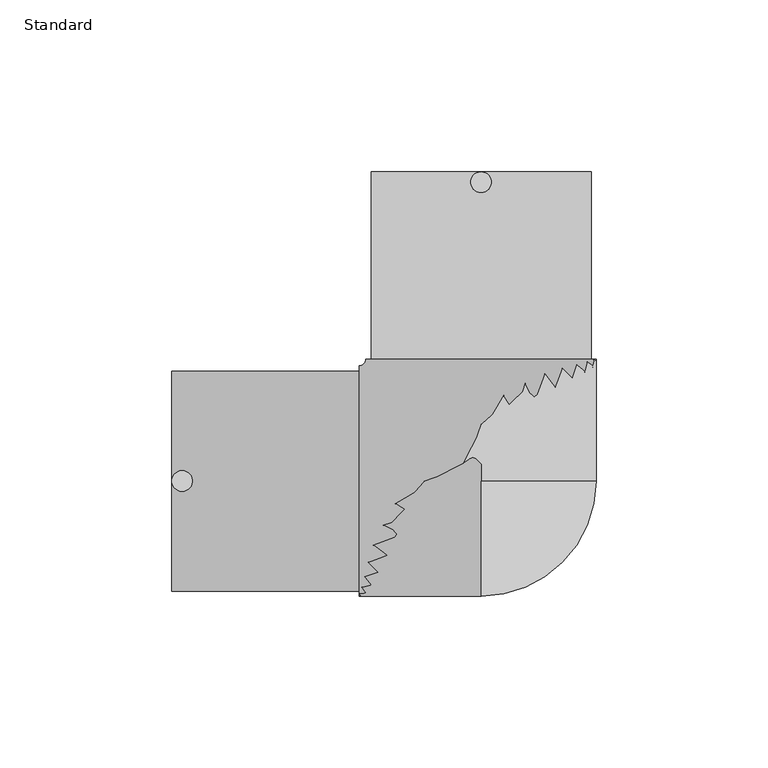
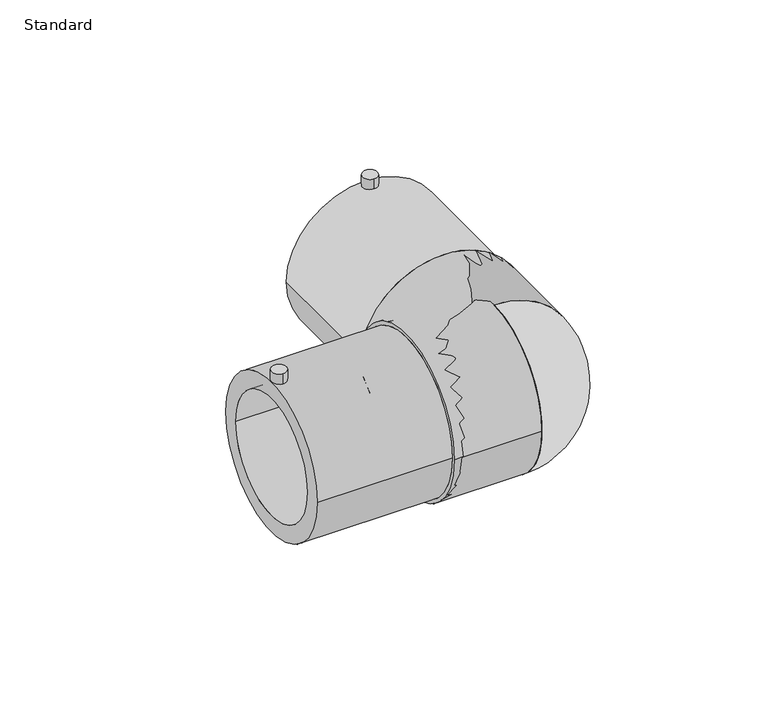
"""IFC4 building model written with IfcOpenShell, lengths in millimetres: pipe fitting geometry, EGB_VASEN_ PPR_Codo electrosoldable 90 WXRD200_Codo electrosoldable 45 WXRD220 : Standard."""

from ifc_helpers import new_model, si_unit, point, frame, frame_2d, origin, origin_2d, place, context, project, spatial, polyline, circle_curve, ellipse_curve, trimmed, segment, composite_curve, outline, extrude, source, transform, mapped, element, save
from ifc_brep_helpers import plane_surface, cylinder_surface, revolved_surface, advanced_brep


def standard_971495b5(model_context):
    return source(origin(), model_context, "Body", "SolidModel", [
        advanced_brep(
        [(0.0, 0.0, -33.5), (0.0, 0.0, 33.5)],
        [
            (0, 1, circle_curve(frame((0.0, 0.0, 0.0), z_axis=(-1.0, 0.0, 0.0), x_axis=(0.0, 1.0, 0.0)), 33.5)),
            (1, 0),
            (1, 0, circle_curve(frame((0.0, 0.0, 0.0), z_axis=(0.0, 1.0, 0.0), x_axis=(-1.0, 0.0, 0.0)), 33.5)),
        ],
        [
            plane_surface(frame((0.0, 0.0, 43.5431585), z_axis=(-1.0, 0.0, 0.0), x_axis=(0.0, -1.0, 0.0))),
            plane_surface(frame((0.0, 0.0, 43.5431585), z_axis=(0.0, 1.0, 0.0), x_axis=(1.0, 0.0, 0.0))),
            revolved_surface(trimmed(ellipse_curve(frame((0.0, 0.0, 0.0), z_axis=(1.0, 0.0, 0.0), x_axis=(0.0, 1.0, 0.0)), 33.5, 33.5), [point((0.0, 0.0, 33.5))], [point((0.0, 0.0, -33.5))], True, "CARTESIAN"), (0.0, 0.0, 43.5431585), (0.0, 0.0, -1.0)),
        ],
        [
            (0, [[1, 2]]),
            (1, [[3, -2]]),
            (2, [[-1, -3]]),
        ],
    ),
        advanced_brep(
        [(-90.0, -32.0, 0.0), (-90.0, 32.0, 0.0), (-90.0, -25.0, 0.0), (-90.0, 25.0, 0.0), (-35.5, -32.0, 0.0), (-35.5, 32.0, 0.0), (-35.5, -25.0, 0.0), (-35.5, 25.0, 0.0), (-35.5, -33.5, 0.0), (-35.5, 33.5, 0.0), (33.5, 35.5, 0.0), (-33.5, 35.5, 0.0), (32.0, 35.5, 0.0), (-32.0, 35.5, 0.0), (25.0, 35.5, 0.0), (-25.0, 35.5, 0.0), (32.0, 90.0, 0.0), (-32.0, 90.0, 0.0), (25.0, 90.0, 0.0), (-25.0, 90.0, 0.0)],
        [
            (0, 1, circle_curve(frame((-90.0, 0.0, 0.0), z_axis=(-1.0, 0.0, 0.0), x_axis=(0.0, 1.0, 0.0)), 32.0)),
            (1, 0, circle_curve(frame((-90.0, 0.0, 0.0), z_axis=(-1.0, 0.0, 0.0), x_axis=(0.0, 1.0, 0.0)), 32.0)),
            (2, 3, circle_curve(frame((-90.0, 0.0, 0.0), z_axis=(1.0, 0.0, 0.0), x_axis=(0.0, 1.0, 0.0)), 25.0)),
            (3, 2, circle_curve(frame((-90.0, 0.0, 0.0), z_axis=(1.0, 0.0, 0.0), x_axis=(0.0, 1.0, 0.0)), 25.0)),
            (0, 4),
            (4, 5, circle_curve(frame((-35.5, 0.0, 0.0), z_axis=(-1.0, 0.0, 0.0), x_axis=(0.0, 1.0, 0.0)), 32.0)),
            (5, 1),
            (5, 4, circle_curve(frame((-35.5, 0.0, 0.0), z_axis=(-1.0, 0.0, 0.0), x_axis=(0.0, 1.0, 0.0)), 32.0)),
            (2, 6),
            (6, 7, circle_curve(frame((-35.5, 0.0, 0.0), z_axis=(1.0, 0.0, 0.0), x_axis=(0.0, 1.0, 0.0)), 25.0)),
            (7, 3),
            (7, 6, circle_curve(frame((-35.5, 0.0, 0.0), z_axis=(1.0, 0.0, 0.0), x_axis=(0.0, 1.0, 0.0)), 25.0)),
            (8, 9, circle_curve(frame((-35.5, 0.0, 0.0), z_axis=(-1.0, 0.0, 0.0), x_axis=(0.0, 1.0, 0.0)), 33.5)),
            (9, 8, circle_curve(frame((-35.5, 0.0, 0.0), z_axis=(-1.0, 0.0, 0.0), x_axis=(0.0, 1.0, 0.0)), 33.5)),
            (10, 11, circle_curve(frame((0.0, 35.5, 0.0), z_axis=(0.0, 1.0, 0.0), x_axis=(-1.0, 0.0, 0.0)), 33.5)),
            (11, 10, circle_curve(frame((0.0, 35.5, 0.0), z_axis=(0.0, 1.0, 0.0), x_axis=(-1.0, 0.0, 0.0)), 33.5)),
            (12, 13, circle_curve(frame((0.0, 35.5, 0.0), z_axis=(0.0, -1.0, 0.0), x_axis=(-1.0, 0.0, 0.0)), 32.0)),
            (13, 12, circle_curve(frame((0.0, 35.5, 0.0), z_axis=(0.0, -1.0, 0.0), x_axis=(-1.0, 0.0, 0.0)), 32.0)),
            (14, 15, circle_curve(frame((0.0, 35.5, 0.0), z_axis=(0.0, 1.0, 0.0), x_axis=(-1.0, 0.0, 0.0)), 25.0)),
            (15, 14, circle_curve(frame((0.0, 35.5, 0.0), z_axis=(0.0, 1.0, 0.0), x_axis=(-1.0, 0.0, 0.0)), 25.0)),
            (8, 10, circle_curve(frame((-35.5, 35.5, 0.0), z_axis=(0.0, 0.0, 1.0), x_axis=(0.0, -1.0, 0.0)), 69.0)),
            (11, 9, circle_curve(frame((-35.5, 35.5, 0.0), z_axis=(0.0, 0.0, -1.0), x_axis=(0.0, -1.0, 0.0)), 2.0)),
            (16, 17, circle_curve(frame((0.0, 90.0, 0.0), z_axis=(0.0, 1.0, 0.0), x_axis=(-1.0, 0.0, 0.0)), 32.0)),
            (17, 16, circle_curve(frame((0.0, 90.0, 0.0), z_axis=(0.0, 1.0, 0.0), x_axis=(-1.0, 0.0, 0.0)), 32.0)),
            (18, 19, circle_curve(frame((0.0, 90.0, 0.0), z_axis=(0.0, -1.0, 0.0), x_axis=(-1.0, 0.0, 0.0)), 25.0)),
            (19, 18, circle_curve(frame((0.0, 90.0, 0.0), z_axis=(0.0, -1.0, 0.0), x_axis=(-1.0, 0.0, 0.0)), 25.0)),
            (17, 13),
            (12, 16),
            (19, 15),
            (14, 18),
        ],
        [
            plane_surface(frame((-90.0, 0.0, 0.0), z_axis=(-1.0, 0.0, 0.0), x_axis=(0.0, 0.0, 1.0))),
            cylinder_surface(frame((-90.0, 0.0, 0.0), z_axis=(-1.0, 0.0, 0.0), x_axis=(0.0, 1.0, 0.0)), 32.0),
            revolved_surface(polyline([(-35.5, 25.0, 0.0), (-90.0, 25.0, 0.0)]), (-90.0, 0.0, 0.0), (1.0, 0.0, 0.0)),
            plane_surface(frame((-35.5, 0.0, 0.0), z_axis=(-1.0, 0.0, 0.0), x_axis=(0.0, 0.0, 1.0))),
            plane_surface(frame((0.0, 35.5, 0.0), z_axis=(0.0, 1.0, 0.0), x_axis=(0.0, 0.0, 1.0))),
            revolved_surface(trimmed(ellipse_curve(frame((-35.5, 0.0, 0.0), z_axis=(-1.0, 0.0, 0.0), x_axis=(0.0, 1.0, 0.0)), 33.5, 33.5), [point((-35.5, -33.5, 0.0))], [point((-35.5, 33.5, 0.0))], True, "CARTESIAN"), (-35.5, 35.5, 0.0), (0.0, 0.0, 1.0)),
            revolved_surface(trimmed(ellipse_curve(frame((-35.5, 0.0, 0.0), z_axis=(-1.0, 0.0, 0.0), x_axis=(0.0, 1.0, 0.0)), 33.5, 33.5), [point((-35.5, 33.5, 0.0))], [point((-35.5, -33.5, 0.0))], True, "CARTESIAN"), (-35.5, 35.5, 0.0), (0.0, 0.0, 1.0)),
            plane_surface(frame((0.0, 90.0, 0.0), z_axis=(0.0, 1.0, 0.0), x_axis=(0.0, 0.0, 1.0))),
            cylinder_surface(frame((0.0, 35.5, 0.0), z_axis=(0.0, -1.0, 0.0), x_axis=(-1.0, 0.0, 0.0)), 32.0),
            revolved_surface(polyline([(-25.0, 90.0, 0.0), (-25.0, 35.5, 0.0)]), (0.0, 35.5, 0.0), (0.0, 1.0, 0.0)),
        ],
        [
            (0, [[1, 2], [3, 4]]),
            (1, [[-1, 5, 6, 7]]),
            (1, [[-2, -7, 8, -5]]),
            (2, [[-3, 9, 10, 11]]),
            (2, [[-4, -11, 12, -9]]),
            (3, [[-10, -12]]),
            (3, [[13, 14], [-6, -8]]),
            (4, [[15, 16], [17, 18]]),
            (4, [[19, 20]]),
            (5, [[-13, 21, -16, 22]]),
            (6, [[-14, -22, -15, -21]]),
            (7, [[23, 24], [25, 26]]),
            (8, [[-24, 27, -17, 28]]),
            (8, [[-23, -28, -18, -27]]),
            (9, [[-26, 29, -19, 30]]),
            (9, [[-25, -30, -20, -29]]),
        ],
    ),
        extrude(outline(composite_curve([segment(trimmed(circle_curve(frame_2d((0.0, 87.0)), 3.0), [point((0.0, 84.0))], [point((0.0, 90.0))], False, "CARTESIAN"), True, "CONTINUOUS"), segment(trimmed(circle_curve(frame_2d((0.0, 87.0)), 3.0), [point((0.0, 90.0))], [point((0.0, 84.0))], False, "CARTESIAN"), True, "CONTINUOUS")], self_intersect=False)), frame((0.0, 0.0, 26.0), z_axis=(0.0, 0.0, 1.0), x_axis=(1.0, 0.0, 0.0)), (0.0, 0.0, 1.0), 10.5),
        extrude(outline(composite_curve([segment(trimmed(circle_curve(frame_2d((-87.0, 0.0)), 3.0), [point((-87.0, -3.0))], [point((-87.0, 3.0))], False, "CARTESIAN"), True, "CONTINUOUS"), segment(trimmed(circle_curve(frame_2d((-87.0, 0.0)), 3.0), [point((-87.0, 3.0))], [point((-87.0, -3.0))], False, "CARTESIAN"), True, "CONTINUOUS")], self_intersect=False)), frame((0.0, 0.0, 26.0), z_axis=(0.0, 0.0, 1.0), x_axis=(1.0, 0.0, 0.0)), (0.0, 0.0, 1.0), 10.5),
        extrude(outline(composite_curve([segment(trimmed(circle_curve(origin_2d(), 33.5), [point((-33.5, 0.0))], [point((33.5, 0.0))], False, "CARTESIAN"), True, "CONTINUOUS"), segment(trimmed(circle_curve(origin_2d(), 33.5), [point((33.5, 0.0))], [point((-33.5, 0.0))], False, "CARTESIAN"), True, "CONTINUOUS")], self_intersect=False)), frame((-35.5, 0.0, 0.0), z_axis=(1.0, 0.0, 0.0), x_axis=(0.0, 1.0, 0.0)), (0.0, 0.0, 1.0), 35.5),
        extrude(outline(composite_curve([segment(trimmed(circle_curve(origin_2d(), 33.5), [point((0.0, -33.5))], [point((0.0, 33.5))], False, "CARTESIAN"), True, "CONTINUOUS"), segment(trimmed(circle_curve(origin_2d(), 33.5), [point((0.0, 33.5))], [point((0.0, -33.5))], False, "CARTESIAN"), True, "CONTINUOUS")], self_intersect=False)), frame((0.0, 0.0, 0.0), z_axis=(0.0, 1.0, 0.0), x_axis=(0.0, 0.0, 1.0)), (0.0, 0.0, 1.0), 35.5),
    ])


if __name__ == "__main__":
    model = new_model("IFC4")
    model_context = context("Model", 3, world=origin())
    ifc_project = project(units=[si_unit("LENGTHUNIT", "METRE", prefix="MILLI")], contexts=[model_context])
    site = spatial("IfcSite", under=ifc_project)
    building = spatial("IfcBuilding", under=site)
    placement = place(None, origin())
    standard_shape = standard_971495b5(model_context)
    element("IfcPipeFitting", 1, ObjectType="EGB_VASEN_ PPR_Codo electrosoldable 90 WXRD200_Codo electrosoldable 45 WXRD220 : Standard", at=placement, inside=building, context=model_context, shape_type="MappedRepresentation", body=[
        mapped(standard_shape, transform((0.0, 0.0, 0.0), x_axis=(1.0, 0.0, 0.0), y_axis=(0.0, 1.0, 0.0), z_axis=(0.0, 0.0, 1.0))),
    ])
    save(model, "model.ifc")
